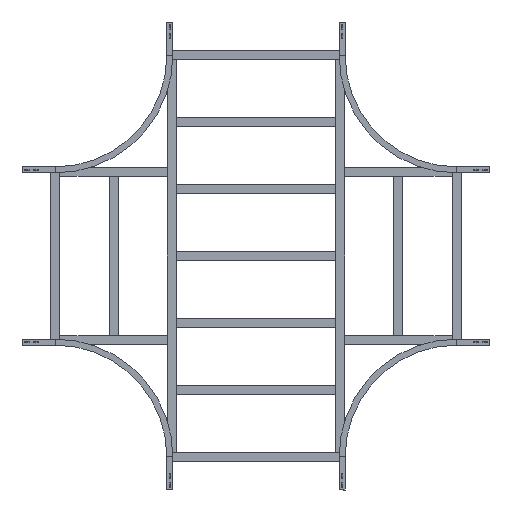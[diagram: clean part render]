
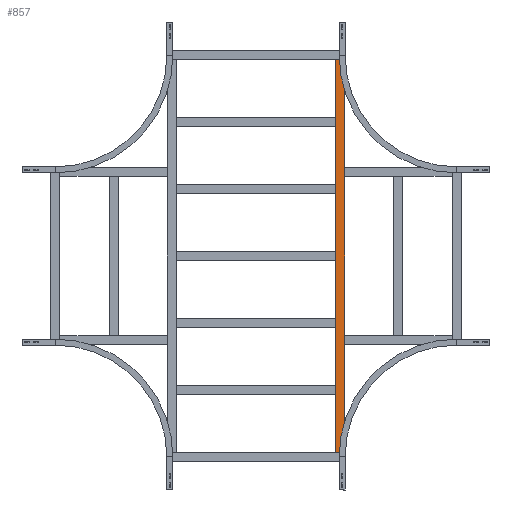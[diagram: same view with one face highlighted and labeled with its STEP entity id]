
A CAD part, front view. The second image highlights one B-rep face of the part: STEP entity #857.
In plain terms, the highlighted planar face has unit normal (0, -1, 0).
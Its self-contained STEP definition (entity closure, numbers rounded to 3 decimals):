
#183 = PLANE ( 'NONE',  #399 ) ;
#187 = LINE ( 'NONE', #1080, #2812 ) ;
#192 = VECTOR ( 'NONE', #1201, 1000. ) ;
#249 = ORIENTED_EDGE ( 'NONE', *, *, #325, .T. ) ;
#306 = CARTESIAN_POINT ( 'NONE',  ( 879.75, 0., -20.25 ) ) ;
#319 = DIRECTION ( 'NONE',  ( 0., 0., -1. ) ) ;
#325 = EDGE_CURVE ( 'NONE', #2283, #2256, #187, .T. ) ;
#389 = FACE_OUTER_BOUND ( 'NONE', #543, .T. ) ;
#399 = AXIS2_PLACEMENT_3D ( 'NONE', #2871, #1987, #2897 ) ;
#497 = LINE ( 'NONE', #976, #1617 ) ;
#540 = EDGE_CURVE ( 'NONE', #1110, #2283, #1605, .T. ) ;
#543 = EDGE_LOOP ( 'NONE', ( #249, #947, #1049, #940 ) ) ;
#572 = EDGE_CURVE ( 'NONE', #1956, #2256, #497, .T. ) ;
#601 = CARTESIAN_POINT ( 'NONE',  ( -879.75, 0., -20.25 ) ) ;
#847 = DIRECTION ( 'NONE',  ( 0., 0., -1. ) ) ;
#857 = ADVANCED_FACE ( 'NONE', ( #389 ), #183, .F. ) ;
#873 = VECTOR ( 'NONE', #319, 1000. ) ;
#940 = ORIENTED_EDGE ( 'NONE', *, *, #540, .T. ) ;
#947 = ORIENTED_EDGE ( 'NONE', *, *, #572, .F. ) ;
#976 = CARTESIAN_POINT ( 'NONE',  ( 879.75, 0., -20.25 ) ) ;
#1049 = ORIENTED_EDGE ( 'NONE', *, *, #1995, .F. ) ;
#1080 = CARTESIAN_POINT ( 'NONE',  ( -879.75, 0., 20.25 ) ) ;
#1110 = VERTEX_POINT ( 'NONE', #1932 ) ;
#1201 = DIRECTION ( 'NONE',  ( -1., 0., 0. ) ) ;
#1384 = DIRECTION ( 'NONE',  ( -1., 0., 0. ) ) ;
#1605 = LINE ( 'NONE', #2504, #192 ) ;
#1617 = VECTOR ( 'NONE', #1384, 1000. ) ;
#1932 = CARTESIAN_POINT ( 'NONE',  ( 879.75, 0., 20.25 ) ) ;
#1956 = VERTEX_POINT ( 'NONE', #306 ) ;
#1987 = DIRECTION ( 'NONE',  ( 0., 1., 0. ) ) ;
#1995 = EDGE_CURVE ( 'NONE', #1110, #1956, #2358, .T. ) ;
#2187 = CARTESIAN_POINT ( 'NONE',  ( 879.75, 0., 20.25 ) ) ;
#2256 = VERTEX_POINT ( 'NONE', #601 ) ;
#2283 = VERTEX_POINT ( 'NONE', #2350 ) ;
#2350 = CARTESIAN_POINT ( 'NONE',  ( -879.75, 0., 20.25 ) ) ;
#2358 = LINE ( 'NONE', #2187, #873 ) ;
#2504 = CARTESIAN_POINT ( 'NONE',  ( 879.75, 0., 20.25 ) ) ;
#2812 = VECTOR ( 'NONE', #847, 1000. ) ;
#2871 = CARTESIAN_POINT ( 'NONE',  ( 879.75, 0., 20.25 ) ) ;
#2897 = DIRECTION ( 'NONE',  ( 0., 0., 1. ) ) ;
